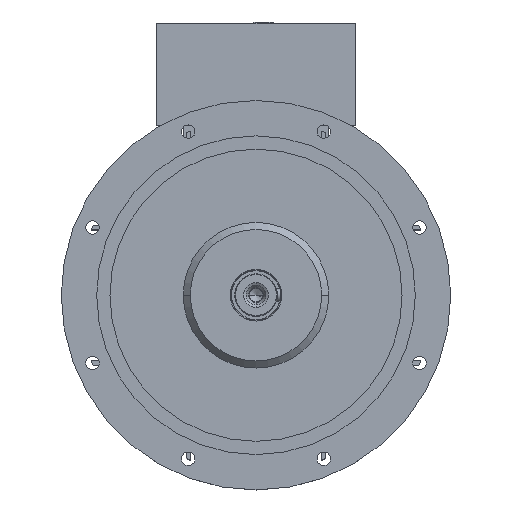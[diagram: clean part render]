
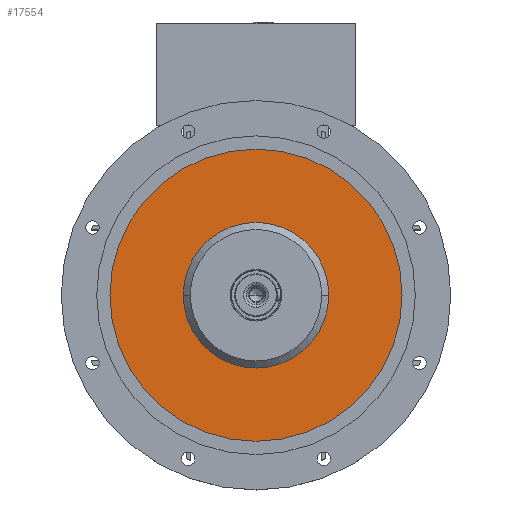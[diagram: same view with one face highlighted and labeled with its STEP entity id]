
A CAD part, top view. The second image highlights one B-rep face of the part: STEP entity #17554.
In plain terms, the highlighted planar face has unit normal (0, 0, 1).
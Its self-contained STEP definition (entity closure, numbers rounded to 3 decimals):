
#280 = CARTESIAN_POINT ( 'NONE',  ( 0., 0., 330.5 ) ) ;
#725 = CARTESIAN_POINT ( 'NONE',  ( 0., 0., 330.5 ) ) ;
#1060 = EDGE_CURVE ( 'NONE', #21104, #18989, #22232, .T. ) ;
#1238 = FACE_BOUND ( 'NONE', #8025, .T. ) ;
#1276 = DIRECTION ( 'NONE',  ( 1., 0., 0. ) ) ;
#1308 = CIRCLE ( 'NONE', #18126, 206.25 ) ;
#1940 = ORIENTED_EDGE ( 'NONE', *, *, #17261, .T. ) ;
#3143 = AXIS2_PLACEMENT_3D ( 'NONE', #725, #12370, #14330 ) ;
#4218 = CARTESIAN_POINT ( 'NONE',  ( -206.25, 0., 330.5 ) ) ;
#4376 = ORIENTED_EDGE ( 'NONE', *, *, #1060, .T. ) ;
#6683 = ORIENTED_EDGE ( 'NONE', *, *, #16868, .T. ) ;
#7129 = CARTESIAN_POINT ( 'NONE',  ( 206.25, 0., 330.5 ) ) ;
#8025 = EDGE_LOOP ( 'NONE', ( #6683, #4376 ) ) ;
#8531 = CIRCLE ( 'NONE', #3143, 206.25 ) ;
#8998 = EDGE_LOOP ( 'NONE', ( #1940, #21327 ) ) ;
#9537 = DIRECTION ( 'NONE',  ( -1., 0., 0. ) ) ;
#11951 = VERTEX_POINT ( 'NONE', #7129 ) ;
#12370 = DIRECTION ( 'NONE',  ( 0., 0., 1. ) ) ;
#12404 = FACE_OUTER_BOUND ( 'NONE', #8998, .T. ) ;
#12572 = VERTEX_POINT ( 'NONE', #4218 ) ;
#13825 = DIRECTION ( 'NONE',  ( -1., 0., 0. ) ) ;
#14330 = DIRECTION ( 'NONE',  ( -1., 0., 0. ) ) ;
#14373 = CARTESIAN_POINT ( 'NONE',  ( 102.8, 0., 330.5 ) ) ;
#15158 = AXIS2_PLACEMENT_3D ( 'NONE', #20569, #22521, #1276 ) ;
#15519 = CIRCLE ( 'NONE', #21000, 102.8 ) ;
#16584 = PLANE ( 'NONE',  #15158 ) ;
#16868 = EDGE_CURVE ( 'NONE', #18989, #21104, #15519, .T. ) ;
#17261 = EDGE_CURVE ( 'NONE', #12572, #11951, #8531, .T. ) ;
#17554 = ADVANCED_FACE ( 'NONE', ( #12404, #1238 ), #16584, .T. ) ;
#18126 = AXIS2_PLACEMENT_3D ( 'NONE', #280, #21552, #13825 ) ;
#18989 = VERTEX_POINT ( 'NONE', #22171 ) ;
#20282 = EDGE_CURVE ( 'NONE', #11951, #12572, #1308, .T. ) ;
#20569 = CARTESIAN_POINT ( 'NONE',  ( 0., 206.25, 330.5 ) ) ;
#21000 = AXIS2_PLACEMENT_3D ( 'NONE', #24188, #22383, #24272 ) ;
#21104 = VERTEX_POINT ( 'NONE', #14373 ) ;
#21327 = ORIENTED_EDGE ( 'NONE', *, *, #20282, .T. ) ;
#21552 = DIRECTION ( 'NONE',  ( 0., 0., 1. ) ) ;
#22171 = CARTESIAN_POINT ( 'NONE',  ( -102.8, 0., 330.5 ) ) ;
#22232 = CIRCLE ( 'NONE', #22903, 102.8 ) ;
#22383 = DIRECTION ( 'NONE',  ( 0., 0., -1. ) ) ;
#22521 = DIRECTION ( 'NONE',  ( 0., 0., 1. ) ) ;
#22858 = CARTESIAN_POINT ( 'NONE',  ( 0., 0., 330.5 ) ) ;
#22903 = AXIS2_PLACEMENT_3D ( 'NONE', #22858, #24824, #9537 ) ;
#24188 = CARTESIAN_POINT ( 'NONE',  ( 0., 0., 330.5 ) ) ;
#24272 = DIRECTION ( 'NONE',  ( -1., 0., 0. ) ) ;
#24824 = DIRECTION ( 'NONE',  ( 0., 0., -1. ) ) ;
